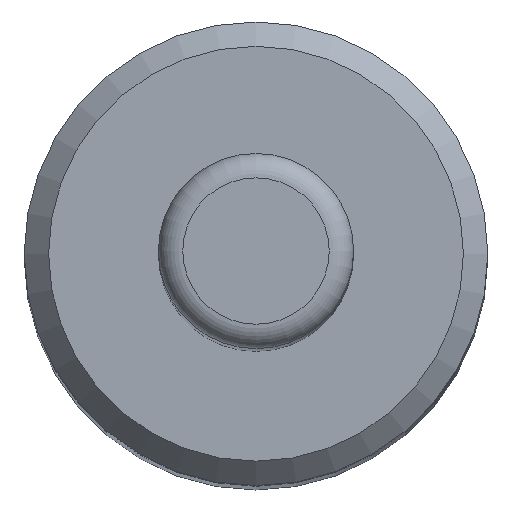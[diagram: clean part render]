
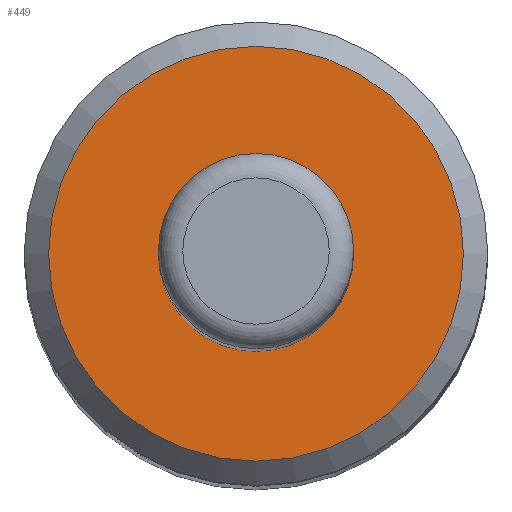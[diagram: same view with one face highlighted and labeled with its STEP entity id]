
A CAD part, top view. The second image highlights one B-rep face of the part: STEP entity #449.
In plain terms, the highlighted planar face has unit normal (0, 0, 1).
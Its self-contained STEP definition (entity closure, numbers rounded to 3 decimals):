
#429 = VERTEX_POINT('',#430);
#430 = CARTESIAN_POINT('',(8.5,0.,104.));
#438 = EDGE_CURVE('',#429,#429,#439,.T.);
#439 = CIRCLE('',#440,8.5);
#440 = AXIS2_PLACEMENT_3D('',#441,#442,#443);
#441 = CARTESIAN_POINT('',(0.,0.,104.));
#442 = DIRECTION('',(0.,0.,1.));
#443 = DIRECTION('',(1.,0.,0.));
#449 = ADVANCED_FACE('',(#450),#453,.T.);
#450 = FACE_BOUND('',#451,.T.);
#451 = EDGE_LOOP('',(#452));
#452 = ORIENTED_EDGE('',*,*,#438,.T.);
#453 = PLANE('',#454);
#454 = AXIS2_PLACEMENT_3D('',#455,#456,#457);
#455 = CARTESIAN_POINT('',(0.,0.,104.));
#456 = DIRECTION('',(0.,0.,1.));
#457 = DIRECTION('',(1.,0.,0.));
